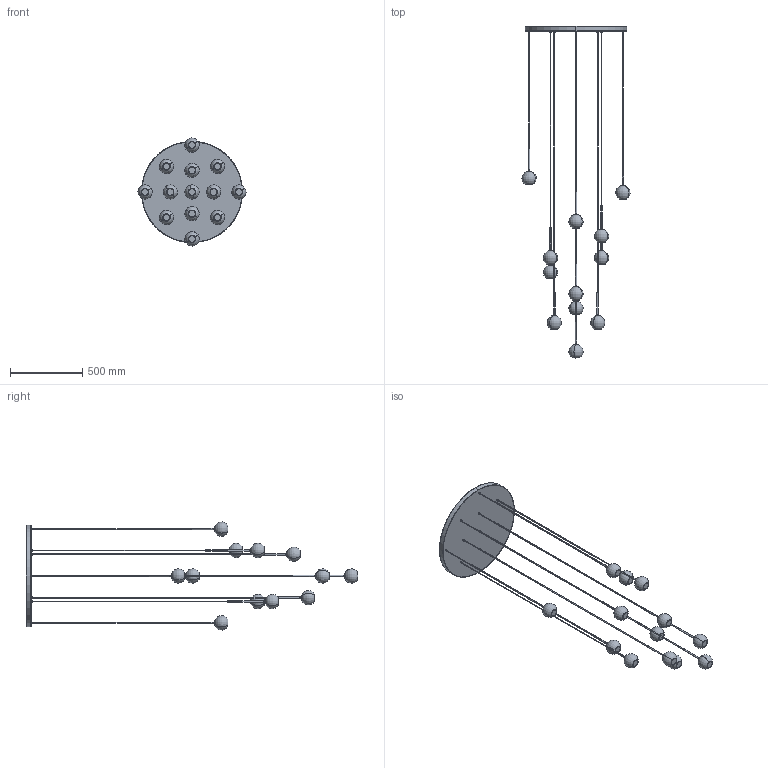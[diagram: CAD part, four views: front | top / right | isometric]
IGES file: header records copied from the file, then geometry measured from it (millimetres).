
Start section: SolidWorks IGES file using analytic representation for surfaces
Global section: file name: C:\Users\Agus\Desktop\NUEVAS PROPUESTAS 2021\Composiciones\C1230-13\Composicion_C1230_13.IGS; native system: SolidWorks 2018; preprocessor: SolidWorks 2018; author: Agus; date: 210629.183439; units: millimetre
Bounding box: 748.49 x 2298.3 x 749.05 mm (x, y, z)
Surface area: 2145656.1 mm2 (no closed solid volume)
Topology: 0 solids, 0 shells, 529 faces, 10736 edges, 10719 vertices
Faces by surface type: revolution 368, bspline 161
